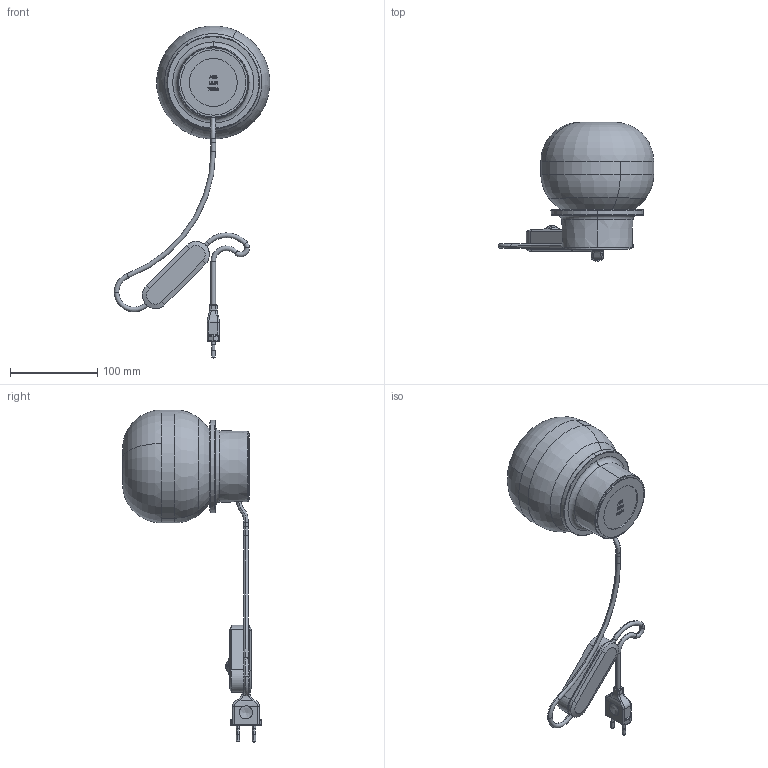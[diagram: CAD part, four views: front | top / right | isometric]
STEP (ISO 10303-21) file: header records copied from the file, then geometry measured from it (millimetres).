
FILE_DESCRIPTION (( 'STEP AP203' ), '1' );
FILE_NAME ('Lille Table .STEP', '2025-06-05T07:07:52', ( '' ), ( '' ), 'SwSTEP 2.0', 'SolidWorks 2024', '' );
FILE_SCHEMA (( 'CONFIG_CONTROL_DESIGN' ));
Length unit declared in the file: millimetre
Products named in the file (7): ATC-A08-T190-R00_Trasparente Arditi 020492<A macchina>; Lille Table ; ATC-A08-W100-R00; ATA-A08-W100-R00; ATC-A08-T102-R01; ATC-A08-T100-R00; ATC-A08-T191-R00
Assembly tree (6 placements, depth 3):
  Lille Table 
    ATA-A08-W100-R00
      ATC-A08-W100-R00
    ATC-A08-T100-R00
    ATC-A08-T102-R01
    ATC-A08-T191-R00
    ATC-A08-T190-R00_Trasparente Arditi 020492<A macchina>
Bounding box: 178.56 x 159.59 x 381.22 mm (x, y, z)
Volume: 335892.1 mm3; surface area: 170139 mm2
Topology: 13 solids, 13 shells, 433 faces, 1005 edges, 618 vertices
Faces by surface type: plane 166, cylinder 100, bspline 81, torus 65, cone 17, sphere 4
Entity records: 18690 total; most frequent: CARTESIAN_POINT 8541, ORIENTED_EDGE 1986, DIRECTION 1879, EDGE_CURVE 993, AXIS2_PLACEMENT_3D 704, VERTEX_POINT 614, LINE 471, VECTOR 471
